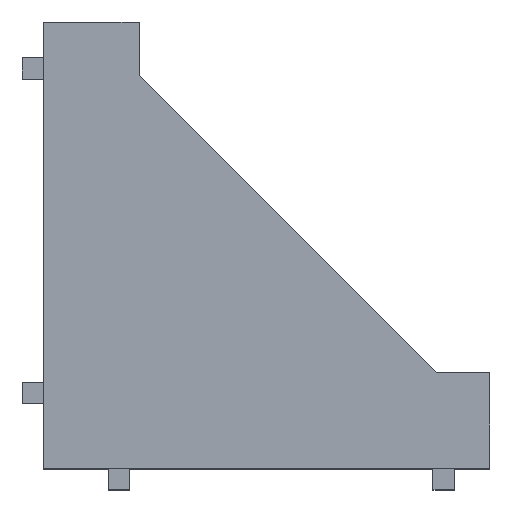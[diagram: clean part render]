
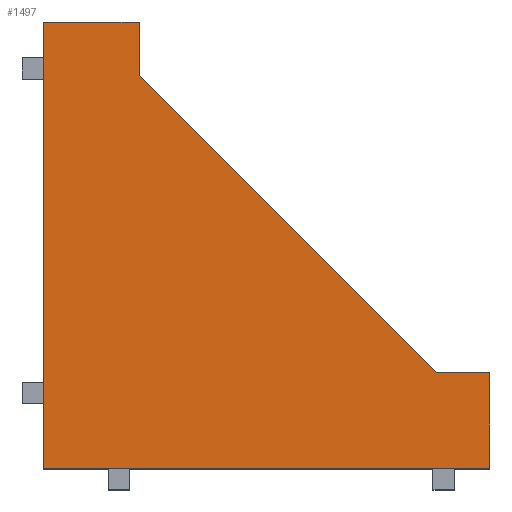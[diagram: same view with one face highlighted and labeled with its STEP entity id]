
A CAD part, top view. The second image highlights one B-rep face of the part: STEP entity #1497.
In plain terms, the highlighted planar face has unit normal (0, 0, 1).
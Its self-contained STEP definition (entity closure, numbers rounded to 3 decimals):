
#2 = ORIENTED_EDGE ( 'NONE', *, *, #853, .T. ) ;
#8 = FACE_OUTER_BOUND ( 'NONE', #2120, .T. ) ;
#73 = VECTOR ( 'NONE', #2124, 1000. ) ;
#96 = VECTOR ( 'NONE', #1133, 1000. ) ;
#156 = CARTESIAN_POINT ( 'NONE',  ( 0., 0., 21.25 ) ) ;
#157 = ORIENTED_EDGE ( 'NONE', *, *, #283, .T. ) ;
#169 = EDGE_CURVE ( 'NONE', #1667, #2185, #460, .T. ) ;
#191 = LINE ( 'NONE', #2379, #73 ) ;
#206 = CARTESIAN_POINT ( 'NONE',  ( 0., 42., 21.25 ) ) ;
#222 = ORIENTED_EDGE ( 'NONE', *, *, #312, .T. ) ;
#253 = VECTOR ( 'NONE', #2337, 1000. ) ;
#283 = EDGE_CURVE ( 'NONE', #2185, #397, #405, .T. ) ;
#299 = ORIENTED_EDGE ( 'NONE', *, *, #1744, .T. ) ;
#312 = EDGE_CURVE ( 'NONE', #1290, #2330, #2411, .T. ) ;
#335 = ORIENTED_EDGE ( 'NONE', *, *, #1064, .T. ) ;
#397 = VERTEX_POINT ( 'NONE', #556 ) ;
#405 = LINE ( 'NONE', #156, #253 ) ;
#460 = LINE ( 'NONE', #206, #1372 ) ;
#548 = PLANE ( 'NONE',  #651 ) ;
#556 = CARTESIAN_POINT ( 'NONE',  ( 0., 0., 21.25 ) ) ;
#651 = AXIS2_PLACEMENT_3D ( 'NONE', #1246, #980, #735 ) ;
#729 = ORIENTED_EDGE ( 'NONE', *, *, #2392, .T. ) ;
#735 = DIRECTION ( 'NONE',  ( -1., 0., 0. ) ) ;
#741 = CARTESIAN_POINT ( 'NONE',  ( 37., 9., 21.25 ) ) ;
#853 = EDGE_CURVE ( 'NONE', #1536, #1667, #2222, .T. ) ;
#863 = CARTESIAN_POINT ( 'NONE',  ( 0., 42., 21.25 ) ) ;
#980 = DIRECTION ( 'NONE',  ( 0., 0., -1. ) ) ;
#1064 = EDGE_CURVE ( 'NONE', #2266, #1536, #2265, .T. ) ;
#1133 = DIRECTION ( 'NONE',  ( -1., 0., 0. ) ) ;
#1246 = CARTESIAN_POINT ( 'NONE',  ( 0., 42., 21.25 ) ) ;
#1290 = VERTEX_POINT ( 'NONE', #1293 ) ;
#1293 = CARTESIAN_POINT ( 'NONE',  ( 42., 0., 21.25 ) ) ;
#1329 = CARTESIAN_POINT ( 'NONE',  ( 42., 9., 21.25 ) ) ;
#1372 = VECTOR ( 'NONE', #2399, 1000. ) ;
#1390 = CARTESIAN_POINT ( 'NONE',  ( 9., 9., 21.25 ) ) ;
#1497 = ADVANCED_FACE ( 'NONE', ( #8 ), #548, .F. ) ;
#1536 = VERTEX_POINT ( 'NONE', #1912 ) ;
#1602 = ORIENTED_EDGE ( 'NONE', *, *, #169, .T. ) ;
#1638 = LINE ( 'NONE', #1390, #96 ) ;
#1667 = VERTEX_POINT ( 'NONE', #2424 ) ;
#1720 = DIRECTION ( 'NONE',  ( -0.707, 0.707, 0. ) ) ;
#1734 = DIRECTION ( 'NONE',  ( 0., 1., 0. ) ) ;
#1744 = EDGE_CURVE ( 'NONE', #2330, #2266, #1638, .T. ) ;
#1909 = DIRECTION ( 'NONE',  ( 0., 1., 0. ) ) ;
#1912 = CARTESIAN_POINT ( 'NONE',  ( 9., 37., 21.25 ) ) ;
#1954 = VECTOR ( 'NONE', #1909, 1000. ) ;
#1958 = CARTESIAN_POINT ( 'NONE',  ( 9., 37., 21.25 ) ) ;
#1974 = CARTESIAN_POINT ( 'NONE',  ( 9., 42., 21.25 ) ) ;
#2120 = EDGE_LOOP ( 'NONE', ( #335, #2, #1602, #157, #729, #222, #299 ) ) ;
#2124 = DIRECTION ( 'NONE',  ( 1., 0., 0. ) ) ;
#2158 = CARTESIAN_POINT ( 'NONE',  ( 42., 9., 21.25 ) ) ;
#2185 = VERTEX_POINT ( 'NONE', #863 ) ;
#2222 = LINE ( 'NONE', #1974, #2254 ) ;
#2254 = VECTOR ( 'NONE', #1734, 1000. ) ;
#2265 = LINE ( 'NONE', #1958, #2290 ) ;
#2266 = VERTEX_POINT ( 'NONE', #741 ) ;
#2290 = VECTOR ( 'NONE', #1720, 1000. ) ;
#2330 = VERTEX_POINT ( 'NONE', #1329 ) ;
#2337 = DIRECTION ( 'NONE',  ( 0., -1., 0. ) ) ;
#2379 = CARTESIAN_POINT ( 'NONE',  ( 42., 0., 21.25 ) ) ;
#2392 = EDGE_CURVE ( 'NONE', #397, #1290, #191, .T. ) ;
#2399 = DIRECTION ( 'NONE',  ( -1., 0., 0. ) ) ;
#2411 = LINE ( 'NONE', #2158, #1954 ) ;
#2424 = CARTESIAN_POINT ( 'NONE',  ( 9., 42., 21.25 ) ) ;
